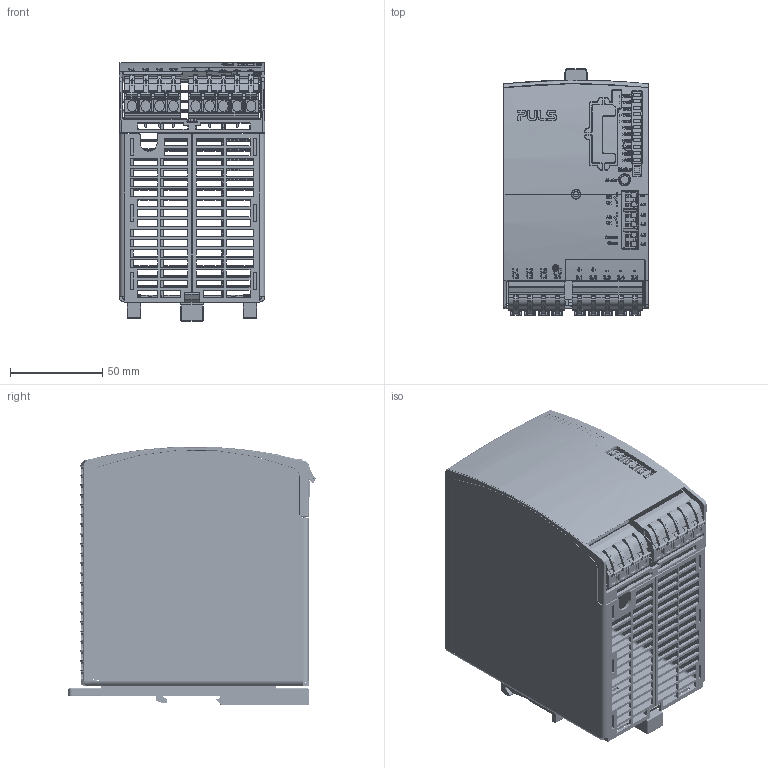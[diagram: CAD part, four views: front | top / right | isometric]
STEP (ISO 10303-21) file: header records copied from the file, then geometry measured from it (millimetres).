
FILE_DESCRIPTION (( 'STEP AP214' ), '1' );
FILE_NAME ('AN-484.98.STEP', '2025-02-07T06:09:31', ( '' ), ( '' ), 'SwSTEP 2.0', 'SolidWorks 2024', '' );
FILE_SCHEMA (( 'AUTOMOTIVE_DESIGN' ));
Length unit declared in the file: millimetre
Products named in the file (10): MKT_SLIDER_Feat_Config; XT-LP5BK-SN; EW-484.881.00_EW-484.881; XT-LP4BK-SN_Standard; HOUSING-BODY-484_00_EW-484.992.00; XT-LP2SW-16_Feat_Config; MKT_T HOLDER_ONE_SCREW; AN-484.98; FRONTFOIL-484_98; RA-10K_6DET-88_BRep_Config
Assembly tree (12 placements, depth 2):
  AN-484.98
    HOUSING-BODY-484_00_EW-484.992.00
    EW-484.881.00_EW-484.881
    RA-10K_6DET-88_BRep_Config
    XT-LP2SW-16_Feat_Config  x3
    XT-LP4BK-SN_Standard
    FRONTFOIL-484_98
    MKT_SLIDER_Feat_Config
    MKT_T HOLDER_ONE_SCREW  x2
    XT-LP5BK-SN
Bounding box: 79 x 134.32 x 140.5 mm (x, y, z)
Volume: 124894.1 mm3; surface area: 161587.9 mm2
Topology: 12 solids, 12 shells, 8621 faces, 23950 edges, 15332 vertices
Faces by surface type: plane 2864, bspline 2747, cylinder 2362, sphere 385, torus 212, cone 51
Entity records: 325939 total; most frequent: CARTESIAN_POINT 139108, ORIENTED_EDGE 45648, DIRECTION 29988, EDGE_CURVE 22824, VERTEX_POINT 14690, AXIS2_PLACEMENT_3D 10725, EDGE_LOOP 8834, B_SPLINE_CURVE_WITH_KNOTS 8585
